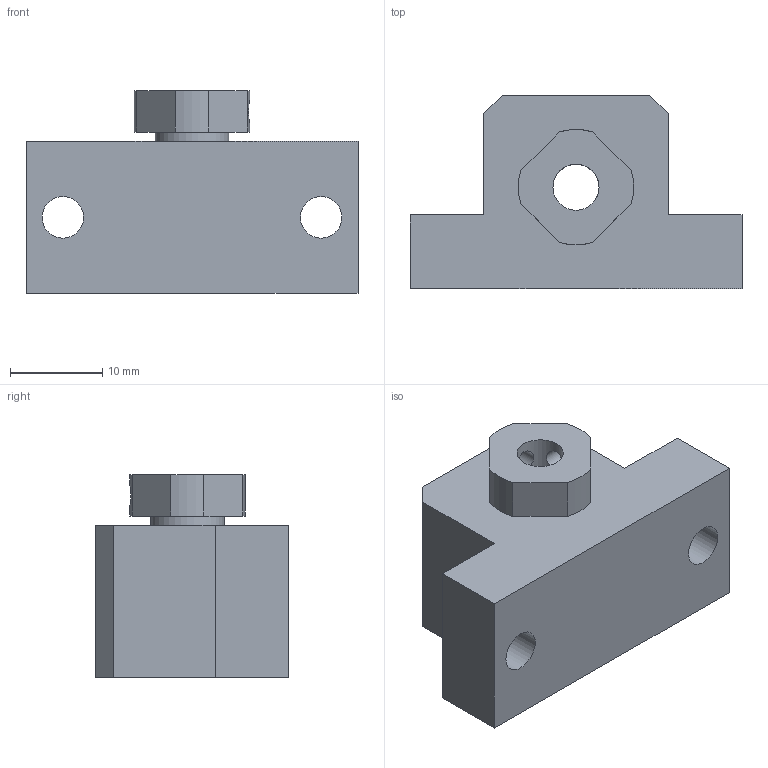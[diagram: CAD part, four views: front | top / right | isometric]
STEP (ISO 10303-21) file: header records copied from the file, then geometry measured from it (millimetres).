
FILE_DESCRIPTION(/* description */ (''),/* implementation_level */ '2;1');
FILE_NAME(/* name */ 'C:\Users\tenki620635\Desktop\官網\圖面\軸承座\3D\setp檔\EK05.stp',/* time_stamp */ '2020-12-18T19:18:38+08:00',/* author */ ('tenki620635'),/* organization */ (''),/* preprocessor_version */ 'ST-DEVELOPER v15.2',/* originating_system */ 'Autodesk Inventor 2014',/* authorisation */ '');
FILE_SCHEMA (('AUTOMOTIVE_DESIGN { 1 0 10303 214 3 1 1 }'));
Length unit declared in the file: millimetre
Products named in the file (1): EK05
Bounding box: 36 x 21 x 22 mm (x, y, z)
Volume: 8770.5 mm3; surface area: 3788.9 mm2
Topology: 1 solids, 1 shells, 32 faces, 86 edges, 59 vertices
Faces by surface type: plane 20, cylinder 12
Full cylindrical faces by diameter (mm): 2.459 x2, 4.5 x2, 5 x1, 8 x2, 12 x1
Entity records: 1085 total; most frequent: CARTESIAN_POINT 295, DIRECTION 152, ORIENTED_EDGE 144, EDGE_CURVE 72, EDGE_LOOP 54, VERTEX_POINT 54, AXIS2_PLACEMENT_3D 53, LINE 46
